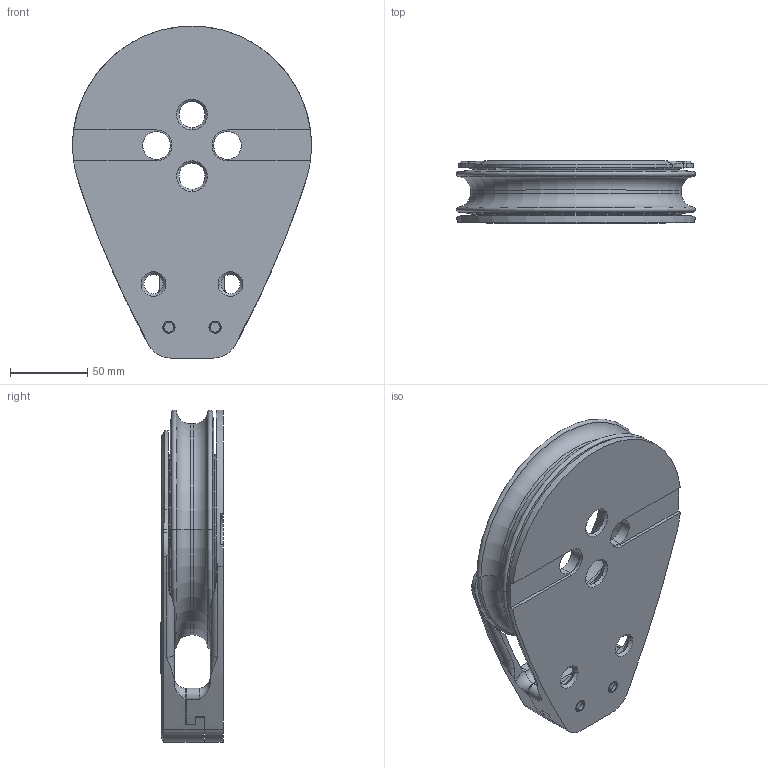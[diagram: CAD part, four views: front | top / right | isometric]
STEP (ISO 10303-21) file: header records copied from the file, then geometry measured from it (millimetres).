
FILE_DESCRIPTION((''),'2;1');
FILE_NAME('29946151_LIB_ASM','2008-05-02T',('RFields'),(''),'PRO/ENGINEER BY PARAMETRIC TECHNOLOGY CORPORATION, 2007030','PRO/ENGINEER BY PARAMETRIC TECHNOLOGY CORPORATION, 2007030','');
FILE_SCHEMA(('CONFIG_CONTROL_DESIGN'));
Length unit declared in the file: millimetre
Products named in the file (6): 25004118; 25001080; 25004119; B0700; 25004126; 29946151_LIB_ASM
Assembly tree (6 placements, depth 2):
  29946151_LIB_ASM
    25004118
    25001080
    25004119
    B0700  x2
    25004126
Bounding box: 154.99 x 40.36 x 215.5 mm (x, y, z)
Volume: 509207.3 mm3; surface area: 171349.4 mm2
Topology: 6 solids, 8 shells, 517 faces, 1350 edges, 868 vertices
Faces by surface type: plane 248, cylinder 147, cone 63, torus 51, bspline 8
Entity records: 16054 total; most frequent: CARTESIAN_POINT 3229, DIRECTION 2756, ORIENTED_EDGE 2616, EDGE_CURVE 1312, AXIS2_PLACEMENT_3D 997, VERTEX_POINT 844, VECTOR 762, LINE 762
